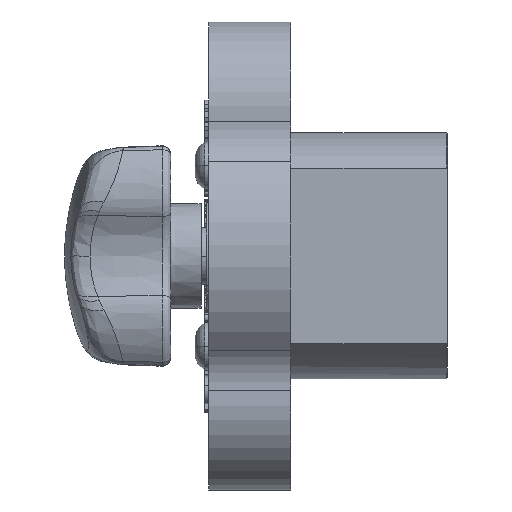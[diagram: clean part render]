
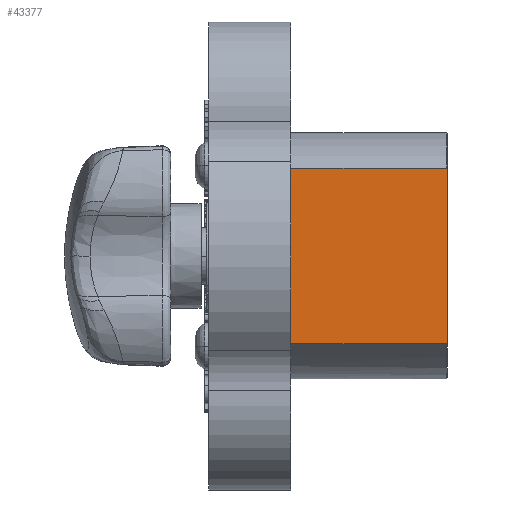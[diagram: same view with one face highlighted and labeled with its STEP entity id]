
A CAD part, left-side view. The second image highlights one B-rep face of the part: STEP entity #43377.
In plain terms, the highlighted planar face has unit normal (-1, 0, 0).
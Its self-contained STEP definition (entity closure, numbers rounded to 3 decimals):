
#1154 = VERTEX_POINT ( 'NONE', #27517 ) ;
#1312 = CARTESIAN_POINT ( 'NONE',  ( -10.5, 0., 10.572 ) ) ;
#2169 = CARTESIAN_POINT ( 'NONE',  ( -10.5, 0., -10.712 ) ) ;
#3410 = VECTOR ( 'NONE', #40748, 1000. ) ;
#4394 = DIRECTION ( 'NONE',  ( 1., 0., 0. ) ) ;
#7409 = CARTESIAN_POINT ( 'NONE',  ( -10.5, 0.1, -10.712 ) ) ;
#9577 = EDGE_CURVE ( 'NONE', #24711, #48517, #19791, .T. ) ;
#9579 = CARTESIAN_POINT ( 'NONE',  ( -10.5, 0., -10.572 ) ) ;
#14265 = CARTESIAN_POINT ( 'NONE',  ( -10.5, 21.933, 10.665 ) ) ;
#14601 = DIRECTION ( 'NONE',  ( 0., 0., -1. ) ) ;
#14965 = ORIENTED_EDGE ( 'NONE', *, *, #16503, .F. ) ;
#15642 = CARTESIAN_POINT ( 'NONE',  ( -10.5, 0.033, -10.619 ) ) ;
#16503 = EDGE_CURVE ( 'NONE', #35148, #59450, #49097, .T. ) ;
#17849 = CARTESIAN_POINT ( 'NONE',  ( -10.5, 0.1, 10.712 ) ) ;
#19791 = B_SPLINE_CURVE_WITH_KNOTS ( 'NONE', 3,
 ( #20093, #42380, #14265, #53061 ),
 .UNSPECIFIED., .F., .F.,
 ( 4, 4 ),
 ( 0., 0. ),
 .UNSPECIFIED. ) ;
#20093 = CARTESIAN_POINT ( 'NONE',  ( -10.5, 22., 10.572 ) ) ;
#21214 = AXIS2_PLACEMENT_3D ( 'NONE', #31555, #4394, #14601 ) ;
#22949 = ORIENTED_EDGE ( 'NONE', *, *, #48809, .F. ) ;
#24711 = VERTEX_POINT ( 'NONE', #24918 ) ;
#24918 = CARTESIAN_POINT ( 'NONE',  ( -10.5, 22., 10.572 ) ) ;
#25189 = CARTESIAN_POINT ( 'NONE',  ( -10.5, 0., -10.712 ) ) ;
#25414 = CARTESIAN_POINT ( 'NONE',  ( -10.5, 21.9, -10.712 ) ) ;
#25645 = DIRECTION ( 'NONE',  ( 0., 1., 0. ) ) ;
#25701 = VERTEX_POINT ( 'NONE', #7409 ) ;
#25726 = VECTOR ( 'NONE', #35230, 1000. ) ;
#27517 = CARTESIAN_POINT ( 'NONE',  ( -10.5, 0., -10.572 ) ) ;
#27916 = ORIENTED_EDGE ( 'NONE', *, *, #49621, .F. ) ;
#28237 = CARTESIAN_POINT ( 'NONE',  ( -10.5, 0., 10.572 ) ) ;
#30001 = VERTEX_POINT ( 'NONE', #28237 ) ;
#30288 = VERTEX_POINT ( 'NONE', #17849 ) ;
#31555 = CARTESIAN_POINT ( 'NONE',  ( -10.5, 0., -10.712 ) ) ;
#32068 = VECTOR ( 'NONE', #25645, 1000. ) ;
#32088 = ORIENTED_EDGE ( 'NONE', *, *, #62266, .F. ) ;
#33549 = DIRECTION ( 'NONE',  ( 0., 0., 1. ) ) ;
#34523 = ORIENTED_EDGE ( 'NONE', *, *, #9577, .F. ) ;
#35148 = VERTEX_POINT ( 'NONE', #63752 ) ;
#35230 = DIRECTION ( 'NONE',  ( 0., -1., 0. ) ) ;
#35929 = EDGE_CURVE ( 'NONE', #30288, #30001, #63249, .T. ) ;
#38716 = LINE ( 'NONE', #40572, #25726 ) ;
#40572 = CARTESIAN_POINT ( 'NONE',  ( -10.5, 0., 10.712 ) ) ;
#40748 = DIRECTION ( 'NONE',  ( 0., 0., -1. ) ) ;
#41090 = EDGE_LOOP ( 'NONE', ( #47390, #60993, #34523, #53411, #14965, #22949, #32088, #27916 ) ) ;
#42380 = CARTESIAN_POINT ( 'NONE',  ( -10.5, 21.967, 10.619 ) ) ;
#43040 = EDGE_CURVE ( 'NONE', #59450, #24711, #55890, .T. ) ;
#43377 = ADVANCED_FACE ( 'NONE', ( #57585 ), #47816, .F. ) ;
#43801 = B_SPLINE_CURVE_WITH_KNOTS ( 'NONE', 3,
 ( #9579, #15642, #49347, #55371 ),
 .UNSPECIFIED., .F., .F.,
 ( 4, 4 ),
 ( 0., 0. ),
 .UNSPECIFIED. ) ;
#45933 = EDGE_CURVE ( 'NONE', #48517, #30288, #38716, .T. ) ;
#46538 = CARTESIAN_POINT ( 'NONE',  ( -10.5, 21.933, -10.665 ) ) ;
#47390 = ORIENTED_EDGE ( 'NONE', *, *, #35929, .F. ) ;
#47816 = PLANE ( 'NONE',  #21214 ) ;
#48517 = VERTEX_POINT ( 'NONE', #60106 ) ;
#48809 = EDGE_CURVE ( 'NONE', #25701, #35148, #65859, .T. ) ;
#49097 = B_SPLINE_CURVE_WITH_KNOTS ( 'NONE', 3,
 ( #25414, #46538, #52337, #63725 ),
 .UNSPECIFIED., .F., .F.,
 ( 4, 4 ),
 ( 0., 0. ),
 .UNSPECIFIED. ) ;
#49347 = CARTESIAN_POINT ( 'NONE',  ( -10.5, 0.067, -10.665 ) ) ;
#49621 = EDGE_CURVE ( 'NONE', #30001, #1154, #71946, .T. ) ;
#50763 = CARTESIAN_POINT ( 'NONE',  ( -10.5, 22., -10.712 ) ) ;
#52337 = CARTESIAN_POINT ( 'NONE',  ( -10.5, 21.967, -10.619 ) ) ;
#53061 = CARTESIAN_POINT ( 'NONE',  ( -10.5, 21.9, 10.712 ) ) ;
#53411 = ORIENTED_EDGE ( 'NONE', *, *, #43040, .F. ) ;
#55371 = CARTESIAN_POINT ( 'NONE',  ( -10.5, 0.1, -10.712 ) ) ;
#55890 = LINE ( 'NONE', #50763, #59347 ) ;
#57585 = FACE_OUTER_BOUND ( 'NONE', #41090, .T. ) ;
#59347 = VECTOR ( 'NONE', #33549, 1000. ) ;
#59450 = VERTEX_POINT ( 'NONE', #66055 ) ;
#60106 = CARTESIAN_POINT ( 'NONE',  ( -10.5, 21.9, 10.712 ) ) ;
#60959 = CARTESIAN_POINT ( 'NONE',  ( -10.5, 0.1, 10.712 ) ) ;
#60993 = ORIENTED_EDGE ( 'NONE', *, *, #45933, .F. ) ;
#62266 = EDGE_CURVE ( 'NONE', #1154, #25701, #43801, .T. ) ;
#63249 = B_SPLINE_CURVE_WITH_KNOTS ( 'NONE', 3,
 ( #60959, #65596, #67501, #1312 ),
 .UNSPECIFIED., .F., .F.,
 ( 4, 4 ),
 ( 0., 0. ),
 .UNSPECIFIED. ) ;
#63725 = CARTESIAN_POINT ( 'NONE',  ( -10.5, 22., -10.572 ) ) ;
#63752 = CARTESIAN_POINT ( 'NONE',  ( -10.5, 21.9, -10.712 ) ) ;
#65596 = CARTESIAN_POINT ( 'NONE',  ( -10.5, 0.067, 10.665 ) ) ;
#65859 = LINE ( 'NONE', #25189, #32068 ) ;
#66055 = CARTESIAN_POINT ( 'NONE',  ( -10.5, 22., -10.572 ) ) ;
#67501 = CARTESIAN_POINT ( 'NONE',  ( -10.5, 0.033, 10.619 ) ) ;
#71946 = LINE ( 'NONE', #2169, #3410 ) ;
